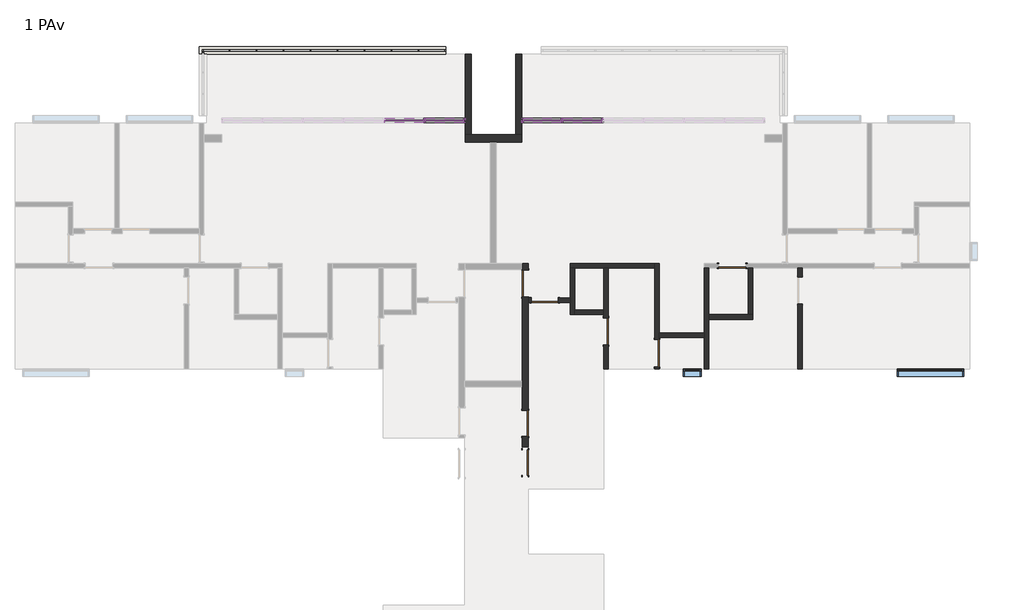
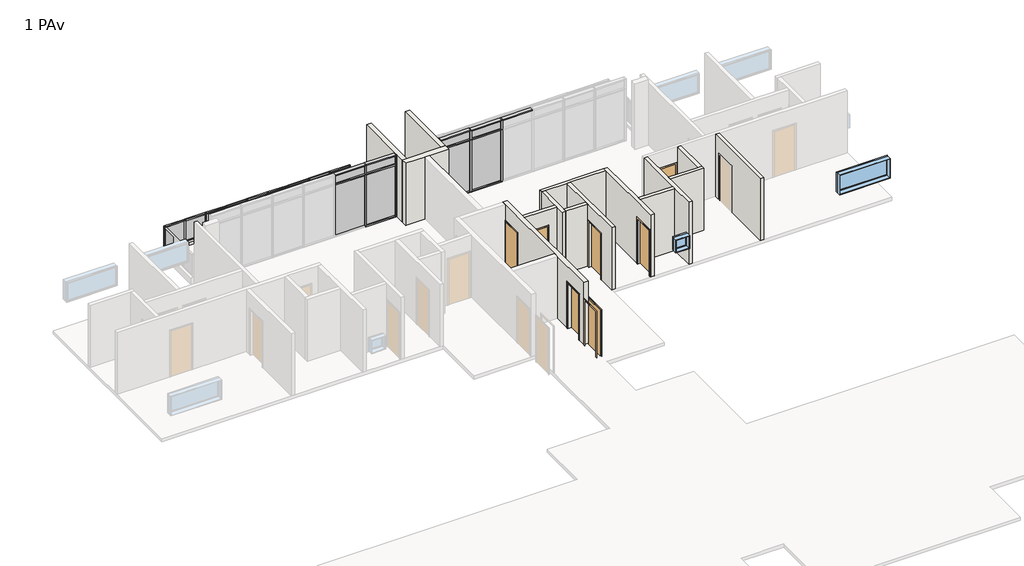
# One storey, part 5 of 6: 52 members, 18 plates, 16 walls, 7 doors, 2 windows.
"""IFC4 building model written with IfcOpenShell, lengths in millimetres."""

from ifc_helpers import new_model, si_unit, frame, origin, place, context, project, spatial, polyline, outline, extrude, faceted_brep, transform, mapped, element, save
from components import door_85_x_210_ba3adec2, door_85_x_210_7675e995, door_90_x_210_2c83007d, door_90_x_210_ee935524, door_90_x_210_565370b3, montante_retangular_50_mm_quadrado_4acded50, montante_retangular_50_mm_quadrado_237d7072, montante_retangular_50_mm_quadrado_84e40a56, montante_retangular_50_mm_quadrado_3d152aff, montante_retangular_50_mm_quadrado_a01005a4, montante_retangular_50_x_150_mm_6217edde, montante_retangular_50_x_150_mm_a22249d7, montante_retangular_50_x_150_mm_6225e4e3, montante_retangular_50_x_150_mm_662c37b1, montante_retangular_50_x_150_mm_567eccab, montante_retangular_50_x_150_mm_1ca2bba2, montante_retangular_50_x_150_mm_6abf4531, montante_retangular_50_x_150_mm_0a8c3443, painel_do_sistema_57ceaf50, painel_do_sistema_ab0ed719, painel_do_sistema_0196877a, painel_do_sistema_1ecb5f42, painel_do_sistema_49db1829, painel_do_sistema_5ea5287b, painel_do_sistema_7730abee, window_0610_x_0610_mm_b5667cc9, window_220_x_90_cea65aae

model = new_model("IFC4")

# Units and contexts
model_context = context("Model", 3, world=origin())
ifc_project = project(units=[si_unit("LENGTHUNIT", "METRE", prefix="MILLI")], contexts=[model_context])

# Site, building, storey
site = spatial("IfcSite", under=ifc_project)
building = spatial("IfcBuilding", under=site)
storey = spatial("IfcBuildingStorey", under=building, Name="1 PAv", Elevation=3000.0)

# Doors
placement = place(None, origin())
door_85_x_210_shape = door_85_x_210_ba3adec2(model_context)
element("IfcDoor", 1, ObjectType="M_Descarga simples : 85 x 210", at=placement, inside=storey, context=model_context, shape_type="MappedRepresentation", body=[
    mapped(door_85_x_210_shape, transform((23.7734258, 2728.6614625, 3000.0), x_axis=(0.0, 1.0, 0.0), y_axis=(-1.0, 0.0, 0.0), z_axis=(0.0, 0.0, 1.0))),
])
door_85_x_210_2_shape = door_85_x_210_7675e995(model_context)
element("IfcDoor", 2, ObjectType="M_Descarga simples : 85 x 210", at=placement, inside=storey, context=model_context, shape_type="MappedRepresentation", body=[
    mapped(door_85_x_210_2_shape, transform((23.7734258, 4028.6614625, 3000.0), x_axis=(0.0, -1.0, 0.0), y_axis=(1.0, 0.0, 0.0), z_axis=(0.0, 0.0, 1.0))),
])
door_90_x_210_shape = door_90_x_210_2c83007d(model_context)
element("IfcDoor", 3, ObjectType="M_Descarga simples : 90 x 210", at=placement, inside=storey, context=model_context, shape_type="MappedRepresentation", body=[
    mapped(door_90_x_210_shape, transform((23.7734258, 8673.2521762, 3000.0), x_axis=(0.0, 1.0, 0.0), y_axis=(-1.0, 0.0, 0.0), z_axis=(0.0, 0.0, 1.0))),
])
door_90_x_210_2_shape = door_90_x_210_ee935524(model_context)
element("IfcDoor", 4, ObjectType="M_Descarga simples : 90 x 210", at=placement, inside=storey, context=model_context, shape_type="MappedRepresentation", body=[
    mapped(door_90_x_210_2_shape, transform((673.7734258, 8118.6614625, 3000.0), x_axis=(-1.0, 0.0, 0.0), y_axis=(0.0, -1.0, 0.0), z_axis=(0.0, 0.0, 1.0))),
])
element("IfcDoor", 5, ObjectType="M_Descarga simples : 90 x 210", at=placement, inside=storey, context=model_context, shape_type="MappedRepresentation", body=[
    mapped(door_90_x_210_2_shape, transform((2698.7734258, 7083.6614625, 3000.0), x_axis=(0.0, -1.0, 0.0), y_axis=(1.0, 0.0, 0.0), z_axis=(0.0, 0.0, 1.0))),
])
element("IfcDoor", 6, ObjectType="M_Descarga simples : 90 x 210", at=placement, inside=storey, context=model_context, shape_type="MappedRepresentation", body=[
    mapped(door_90_x_210_2_shape, transform((4388.7734258, 6358.6614625, 3000.0), x_axis=(0.0, -1.0, 0.0), y_axis=(1.0, 0.0, 0.0), z_axis=(0.0, 0.0, 1.0))),
])
door_90_x_210_3_shape = door_90_x_210_565370b3(model_context)
element("IfcDoor", 7, ObjectType="M_Descarga simples : 90 x 210", at=placement, inside=storey, context=model_context, shape_type="MappedRepresentation", body=[
    mapped(door_90_x_210_3_shape, transform((6883.7734258, 9258.6614625, 3000.0), x_axis=(1.0, 0.0, 0.0), y_axis=(0.0, 1.0, 0.0), z_axis=(0.0, 0.0, 1.0))),
])

# Members
montante_retangular_50_mm_quadrado_shape = montante_retangular_50_mm_quadrado_4acded50(model_context)
element("IfcMember", 8, ObjectType="Montante retangular : 50 mm Quadrado", at=placement, inside=storey, context=model_context, shape_type="MappedRepresentation", body=[
    mapped(montante_retangular_50_mm_quadrado_shape, transform((-10616.2265742, 16403.6614625, 4150.0), x_axis=(0.0, 0.0, 1.0), y_axis=(0.0, 1.0, 0.0), z_axis=(-1.0, 0.0, 0.0))),
])
element("IfcMember", 9, ObjectType="Montante retangular : 50 mm Quadrado", at=placement, inside=storey, context=model_context, shape_type="MappedRepresentation", body=[
    mapped(montante_retangular_50_mm_quadrado_shape, transform((-3481.2265742, 16403.6614625, 4150.0), x_axis=(0.0, 0.0, 1.0), y_axis=(0.0, 1.0, 0.0), z_axis=(-1.0, 0.0, 0.0))),
])
montante_retangular_50_mm_quadrado_2_shape = montante_retangular_50_mm_quadrado_237d7072(model_context)
element("IfcMember", 10, ObjectType="Montante retangular : 50 mm Quadrado", at=placement, inside=storey, context=model_context, shape_type="MappedRepresentation", body=[
    mapped(montante_retangular_50_mm_quadrado_2_shape, transform((-4376.2265742, 16403.6614625, 4150.0), x_axis=(0.0, 0.0, 1.0), y_axis=(0.0, 1.0, 0.0), z_axis=(-1.0, 0.0, 0.0))),
])
element("IfcMember", 11, ObjectType="Montante retangular : 50 mm Quadrado", at=placement, inside=storey, context=model_context, shape_type="MappedRepresentation", body=[
    mapped(montante_retangular_50_mm_quadrado_2_shape, transform((-5271.2265742, 16403.6614625, 4150.0), x_axis=(0.0, 0.0, 1.0), y_axis=(0.0, 1.0, 0.0), z_axis=(-1.0, 0.0, 0.0))),
])
element("IfcMember", 12, ObjectType="Montante retangular : 50 mm Quadrado", at=placement, inside=storey, context=model_context, shape_type="MappedRepresentation", body=[
    mapped(montante_retangular_50_mm_quadrado_2_shape, transform((-6166.2265742, 16403.6614625, 4150.0), x_axis=(0.0, 0.0, 1.0), y_axis=(0.0, 1.0, 0.0), z_axis=(-1.0, 0.0, 0.0))),
])
element("IfcMember", 13, ObjectType="Montante retangular : 50 mm Quadrado", at=placement, inside=storey, context=model_context, shape_type="MappedRepresentation", body=[
    mapped(montante_retangular_50_mm_quadrado_2_shape, transform((-7061.2265742, 16403.6614625, 4150.0), x_axis=(0.0, 0.0, 1.0), y_axis=(0.0, 1.0, 0.0), z_axis=(-1.0, 0.0, 0.0))),
])
element("IfcMember", 14, ObjectType="Montante retangular : 50 mm Quadrado", at=placement, inside=storey, context=model_context, shape_type="MappedRepresentation", body=[
    mapped(montante_retangular_50_mm_quadrado_2_shape, transform((-7956.2265742, 16403.6614625, 4150.0), x_axis=(0.0, 0.0, 1.0), y_axis=(0.0, 1.0, 0.0), z_axis=(-1.0, 0.0, 0.0))),
])
element("IfcMember", 15, ObjectType="Montante retangular : 50 mm Quadrado", at=placement, inside=storey, context=model_context, shape_type="MappedRepresentation", body=[
    mapped(montante_retangular_50_mm_quadrado_2_shape, transform((-8851.2265742, 16403.6614625, 4150.0), x_axis=(0.0, 0.0, 1.0), y_axis=(0.0, 1.0, 0.0), z_axis=(-1.0, 0.0, 0.0))),
])
element("IfcMember", 16, ObjectType="Montante retangular : 50 mm Quadrado", at=placement, inside=storey, context=model_context, shape_type="MappedRepresentation", body=[
    mapped(montante_retangular_50_mm_quadrado_2_shape, transform((-9746.2265742, 16403.6614625, 4150.0), x_axis=(0.0, 0.0, 1.0), y_axis=(0.0, 1.0, 0.0), z_axis=(-1.0, 0.0, 0.0))),
])
element("IfcMember", 17, ObjectType="Montante retangular : 50 mm Quadrado", at=placement, inside=storey, context=model_context, shape_type="MappedRepresentation", body=[
    mapped(montante_retangular_50_mm_quadrado_shape, transform((-2661.2265742, 16403.6614625, 3150.0), x_axis=(0.0, 0.0, -1.0), y_axis=(0.0, 1.0, 0.0), z_axis=(1.0, 0.0, 0.0))),
])
element("IfcMember", 18, ObjectType="Montante retangular : 50 mm Quadrado", at=placement, inside=storey, context=model_context, shape_type="MappedRepresentation", body=[
    mapped(montante_retangular_50_mm_quadrado_shape, transform((-9796.2265742, 16403.6614625, 3150.0), x_axis=(0.0, 0.0, -1.0), y_axis=(0.0, 1.0, 0.0), z_axis=(1.0, 0.0, 0.0))),
])
element("IfcMember", 19, ObjectType="Montante retangular : 50 mm Quadrado", at=placement, inside=storey, context=model_context, shape_type="MappedRepresentation", body=[
    mapped(montante_retangular_50_mm_quadrado_2_shape, transform((-3531.2265742, 16403.6614625, 3150.0), x_axis=(0.0, 0.0, -1.0), y_axis=(0.0, 1.0, 0.0), z_axis=(1.0, 0.0, 0.0))),
])
element("IfcMember", 20, ObjectType="Montante retangular : 50 mm Quadrado", at=placement, inside=storey, context=model_context, shape_type="MappedRepresentation", body=[
    mapped(montante_retangular_50_mm_quadrado_2_shape, transform((-4426.2265742, 16403.6614625, 3150.0), x_axis=(0.0, 0.0, -1.0), y_axis=(0.0, 1.0, 0.0), z_axis=(1.0, 0.0, 0.0))),
])
element("IfcMember", 21, ObjectType="Montante retangular : 50 mm Quadrado", at=placement, inside=storey, context=model_context, shape_type="MappedRepresentation", body=[
    mapped(montante_retangular_50_mm_quadrado_2_shape, transform((-5321.2265742, 16403.6614625, 3150.0), x_axis=(0.0, 0.0, -1.0), y_axis=(0.0, 1.0, 0.0), z_axis=(1.0, 0.0, 0.0))),
])
element("IfcMember", 22, ObjectType="Montante retangular : 50 mm Quadrado", at=placement, inside=storey, context=model_context, shape_type="MappedRepresentation", body=[
    mapped(montante_retangular_50_mm_quadrado_2_shape, transform((-6216.2265742, 16403.6614625, 3150.0), x_axis=(0.0, 0.0, -1.0), y_axis=(0.0, 1.0, 0.0), z_axis=(1.0, 0.0, 0.0))),
])
element("IfcMember", 23, ObjectType="Montante retangular : 50 mm Quadrado", at=placement, inside=storey, context=model_context, shape_type="MappedRepresentation", body=[
    mapped(montante_retangular_50_mm_quadrado_2_shape, transform((-7111.2265742, 16403.6614625, 3150.0), x_axis=(0.0, 0.0, -1.0), y_axis=(0.0, 1.0, 0.0), z_axis=(1.0, 0.0, 0.0))),
])
element("IfcMember", 24, ObjectType="Montante retangular : 50 mm Quadrado", at=placement, inside=storey, context=model_context, shape_type="MappedRepresentation", body=[
    mapped(montante_retangular_50_mm_quadrado_2_shape, transform((-8006.2265742, 16403.6614625, 3150.0), x_axis=(0.0, 0.0, -1.0), y_axis=(0.0, 1.0, 0.0), z_axis=(1.0, 0.0, 0.0))),
])
element("IfcMember", 25, ObjectType="Montante retangular : 50 mm Quadrado", at=placement, inside=storey, context=model_context, shape_type="MappedRepresentation", body=[
    mapped(montante_retangular_50_mm_quadrado_2_shape, transform((-8901.2265742, 16403.6614625, 3150.0), x_axis=(0.0, 0.0, -1.0), y_axis=(0.0, 1.0, 0.0), z_axis=(1.0, 0.0, 0.0))),
])
montante_retangular_50_mm_quadrado_3_shape = montante_retangular_50_mm_quadrado_84e40a56(model_context)
element("IfcMember", 26, ObjectType="Montante retangular : 50 mm Quadrado", at=placement, inside=storey, context=model_context, shape_type="MappedRepresentation", body=[
    mapped(montante_retangular_50_mm_quadrado_3_shape, transform((-3506.2265742, 16403.6614625, 3150.0), x_axis=(-1.0, 0.0, 0.0), y_axis=(0.0, 1.0, 0.0), z_axis=(0.0, 0.0, -1.0))),
])
element("IfcMember", 27, ObjectType="Montante retangular : 50 mm Quadrado", at=placement, inside=storey, context=model_context, shape_type="MappedRepresentation", body=[
    mapped(montante_retangular_50_mm_quadrado_3_shape, transform((-4401.2265742, 16403.6614625, 3150.0), x_axis=(-1.0, 0.0, 0.0), y_axis=(0.0, 1.0, 0.0), z_axis=(0.0, 0.0, -1.0))),
])
element("IfcMember", 28, ObjectType="Montante retangular : 50 mm Quadrado", at=placement, inside=storey, context=model_context, shape_type="MappedRepresentation", body=[
    mapped(montante_retangular_50_mm_quadrado_3_shape, transform((-5296.2265742, 16403.6614625, 3150.0), x_axis=(-1.0, 0.0, 0.0), y_axis=(0.0, 1.0, 0.0), z_axis=(0.0, 0.0, -1.0))),
])
element("IfcMember", 29, ObjectType="Montante retangular : 50 mm Quadrado", at=placement, inside=storey, context=model_context, shape_type="MappedRepresentation", body=[
    mapped(montante_retangular_50_mm_quadrado_3_shape, transform((-6191.2265742, 16403.6614625, 3150.0), x_axis=(-1.0, 0.0, 0.0), y_axis=(0.0, 1.0, 0.0), z_axis=(0.0, 0.0, -1.0))),
])
element("IfcMember", 30, ObjectType="Montante retangular : 50 mm Quadrado", at=placement, inside=storey, context=model_context, shape_type="MappedRepresentation", body=[
    mapped(montante_retangular_50_mm_quadrado_3_shape, transform((-7086.2265742, 16403.6614625, 3150.0), x_axis=(-1.0, 0.0, 0.0), y_axis=(0.0, 1.0, 0.0), z_axis=(0.0, 0.0, -1.0))),
])
element("IfcMember", 31, ObjectType="Montante retangular : 50 mm Quadrado", at=placement, inside=storey, context=model_context, shape_type="MappedRepresentation", body=[
    mapped(montante_retangular_50_mm_quadrado_3_shape, transform((-7981.2265742, 16403.6614625, 3150.0), x_axis=(-1.0, 0.0, 0.0), y_axis=(0.0, 1.0, 0.0), z_axis=(0.0, 0.0, -1.0))),
])
element("IfcMember", 32, ObjectType="Montante retangular : 50 mm Quadrado", at=placement, inside=storey, context=model_context, shape_type="MappedRepresentation", body=[
    mapped(montante_retangular_50_mm_quadrado_3_shape, transform((-8876.2265742, 16403.6614625, 3150.0), x_axis=(-1.0, 0.0, 0.0), y_axis=(0.0, 1.0, 0.0), z_axis=(0.0, 0.0, -1.0))),
])
element("IfcMember", 33, ObjectType="Montante retangular : 50 mm Quadrado", at=placement, inside=storey, context=model_context, shape_type="MappedRepresentation", body=[
    mapped(montante_retangular_50_mm_quadrado_3_shape, transform((-9771.2265742, 16403.6614625, 3150.0), x_axis=(-1.0, 0.0, 0.0), y_axis=(0.0, 1.0, 0.0), z_axis=(0.0, 0.0, -1.0))),
])
montante_retangular_50_mm_quadrado_4_shape = montante_retangular_50_mm_quadrado_3d152aff(model_context)
element("IfcMember", 34, ObjectType="Montante retangular : 50 mm Quadrado", at=placement, inside=storey, context=model_context, shape_type="MappedRepresentation", body=[
    mapped(montante_retangular_50_mm_quadrado_4_shape, transform((-10666.2265742, 16403.6614625, 3150.0), x_axis=(-1.0, 0.0, 0.0), y_axis=(0.0, 1.0, 0.0), z_axis=(0.0, 0.0, -1.0))),
])
element("IfcMember", 35, ObjectType="Montante retangular : 50 mm Quadrado", at=placement, inside=storey, context=model_context, shape_type="MappedRepresentation", body=[
    mapped(montante_retangular_50_mm_quadrado_4_shape, transform((-2611.2265742, 16403.6614625, 4150.0), x_axis=(1.0, 0.0, 0.0), y_axis=(0.0, 1.0, 0.0), z_axis=(0.0, 0.0, 1.0))),
])
element("IfcMember", 36, ObjectType="Montante retangular : 50 mm Quadrado", at=placement, inside=storey, context=model_context, shape_type="MappedRepresentation", body=[
    mapped(montante_retangular_50_mm_quadrado_4_shape, transform((-10641.2265742, 16378.6614625, 4150.0), x_axis=(0.0, 1.0, 0.0), y_axis=(-1.0, 0.0, 0.0), z_axis=(0.0, 0.0, 1.0))),
])
montante_retangular_50_mm_quadrado_5_shape = montante_retangular_50_mm_quadrado_a01005a4(model_context)
element("IfcMember", 37, ObjectType="Montante retangular : 50 mm Quadrado", at=placement, inside=storey, context=model_context, shape_type="MappedRepresentation", body=[
    mapped(montante_retangular_50_mm_quadrado_5_shape, transform((-10641.2265742, 16328.6614625, 3150.0), x_axis=(0.0, 0.0, -1.0), y_axis=(-1.0, 0.0, 0.0), z_axis=(0.0, 1.0, 0.0))),
])
montante_retangular_50_x_150_mm_shape = montante_retangular_50_x_150_mm_6217edde(model_context)
element("IfcMember", 38, ObjectType="Montante retangular : 50 x 150 mm", at=placement, inside=storey, context=model_context, shape_type="MappedRepresentation", body=[
    mapped(montante_retangular_50_x_150_mm_shape, transform((-41.2265742, 14083.6614625, 5850.0), x_axis=(0.0, 0.0, 1.0), y_axis=(0.0, 1.0, 0.0), z_axis=(-1.0, 0.0, 0.0))),
])
montante_retangular_50_x_150_mm_2_shape = montante_retangular_50_x_150_mm_a22249d7(model_context)
element("IfcMember", 39, ObjectType="Montante retangular : 50 x 150 mm", at=placement, inside=storey, context=model_context, shape_type="MappedRepresentation", body=[
    mapped(montante_retangular_50_x_150_mm_2_shape, transform((2622.1067592, 14083.6614625, 5850.0), x_axis=(0.0, 0.0, 1.0), y_axis=(0.0, 1.0, 0.0), z_axis=(-1.0, 0.0, 0.0))),
])
element("IfcMember", 40, ObjectType="Montante retangular : 50 x 150 mm", at=placement, inside=storey, context=model_context, shape_type="MappedRepresentation", body=[
    mapped(montante_retangular_50_x_150_mm_2_shape, transform((1277.9400925, 14083.6614625, 5850.0), x_axis=(0.0, 0.0, 1.0), y_axis=(0.0, 1.0, 0.0), z_axis=(-1.0, 0.0, 0.0))),
])
element("IfcMember", 41, ObjectType="Montante retangular : 50 x 150 mm", at=placement, inside=storey, context=model_context, shape_type="MappedRepresentation", body=[
    mapped(montante_retangular_50_x_150_mm_shape, transform((1227.9400925, 14083.6614625, 3000.0), x_axis=(0.0, 0.0, -1.0), y_axis=(0.0, 1.0, 0.0), z_axis=(1.0, 0.0, 0.0))),
])
element("IfcMember", 42, ObjectType="Montante retangular : 50 x 150 mm", at=placement, inside=storey, context=model_context, shape_type="MappedRepresentation", body=[
    mapped(montante_retangular_50_x_150_mm_2_shape, transform((2572.1067592, 14083.6614625, 3000.0), x_axis=(0.0, 0.0, -1.0), y_axis=(0.0, 1.0, 0.0), z_axis=(1.0, 0.0, 0.0))),
])
element("IfcMember", 43, ObjectType="Montante retangular : 50 x 150 mm", at=placement, inside=storey, context=model_context, shape_type="MappedRepresentation", body=[
    mapped(montante_retangular_50_x_150_mm_shape, transform((-2011.2265742, 14083.6614625, 5850.0), x_axis=(0.0, 0.0, 1.0), y_axis=(0.0, -1.0, 0.0), z_axis=(1.0, 0.0, 0.0))),
])
element("IfcMember", 44, ObjectType="Montante retangular : 50 x 150 mm", at=placement, inside=storey, context=model_context, shape_type="MappedRepresentation", body=[
    mapped(montante_retangular_50_x_150_mm_2_shape, transform((-3330.3932408, 14083.6614625, 5850.0), x_axis=(0.0, 0.0, 1.0), y_axis=(0.0, -1.0, 0.0), z_axis=(1.0, 0.0, 0.0))),
])
element("IfcMember", 45, ObjectType="Montante retangular : 50 x 150 mm", at=placement, inside=storey, context=model_context, shape_type="MappedRepresentation", body=[
    mapped(montante_retangular_50_x_150_mm_shape, transform((-3280.3932408, 14083.6614625, 3000.0), x_axis=(0.0, 0.0, -1.0), y_axis=(0.0, -1.0, 0.0), z_axis=(-1.0, 0.0, 0.0))),
])
montante_retangular_50_x_150_mm_3_shape = montante_retangular_50_x_150_mm_6225e4e3(model_context)
element("IfcMember", 46, ObjectType="Montante retangular : 50 x 150 mm", at=placement, inside=storey, context=model_context, shape_type="MappedRepresentation", body=[
    mapped(montante_retangular_50_x_150_mm_3_shape, transform((-3305.3932408, 14083.6614625, 3000.0), x_axis=(1.0, 0.0, 0.0), y_axis=(0.0, -1.0, 0.0), z_axis=(0.0, 0.0, -1.0))),
])
montante_retangular_50_x_150_mm_4_shape = montante_retangular_50_x_150_mm_662c37b1(model_context)
element("IfcMember", 47, ObjectType="Montante retangular : 50 x 150 mm", at=placement, inside=storey, context=model_context, shape_type="MappedRepresentation", body=[
    mapped(montante_retangular_50_x_150_mm_4_shape, transform((-1961.2265742, 14083.6614625, 3000.0), x_axis=(1.0, 0.0, 0.0), y_axis=(0.0, -1.0, 0.0), z_axis=(0.0, 0.0, -1.0))),
])
element("IfcMember", 48, ObjectType="Montante retangular : 50 x 150 mm", at=placement, inside=storey, context=model_context, shape_type="MappedRepresentation", body=[
    mapped(montante_retangular_50_x_150_mm_3_shape, transform((2597.1067592, 14083.6614625, 3000.0), x_axis=(-1.0, 0.0, 0.0), y_axis=(0.0, 1.0, 0.0), z_axis=(0.0, 0.0, -1.0))),
])
element("IfcMember", 49, ObjectType="Montante retangular : 50 x 150 mm", at=placement, inside=storey, context=model_context, shape_type="MappedRepresentation", body=[
    mapped(montante_retangular_50_x_150_mm_3_shape, transform((1252.9400925, 14083.6614625, 3000.0), x_axis=(-1.0, 0.0, 0.0), y_axis=(0.0, 1.0, 0.0), z_axis=(0.0, 0.0, -1.0))),
])
element("IfcMember", 50, ObjectType="Montante retangular : 50 x 150 mm", at=placement, inside=storey, context=model_context, shape_type="MappedRepresentation", body=[
    mapped(montante_retangular_50_x_150_mm_4_shape, transform((-91.2265742, 14083.6614625, 3000.0), x_axis=(-1.0, 0.0, 0.0), y_axis=(0.0, 1.0, 0.0), z_axis=(0.0, 0.0, -1.0))),
])
montante_retangular_50_x_150_mm_5_shape = montante_retangular_50_x_150_mm_567eccab(model_context)
element("IfcMember", 51, ObjectType="Montante retangular : 50 x 150 mm", at=placement, inside=storey, context=model_context, shape_type="MappedRepresentation", body=[
    mapped(montante_retangular_50_x_150_mm_5_shape, transform((-3305.3932408, 14083.6614625, 5400.0), x_axis=(1.0, 0.0, 0.0), y_axis=(0.0, -1.0, 0.0), z_axis=(0.0, 0.0, -1.0))),
])
montante_retangular_50_x_150_mm_6_shape = montante_retangular_50_x_150_mm_1ca2bba2(model_context)
element("IfcMember", 52, ObjectType="Montante retangular : 50 x 150 mm", at=placement, inside=storey, context=model_context, shape_type="MappedRepresentation", body=[
    mapped(montante_retangular_50_x_150_mm_6_shape, transform((-2011.2265742, 14083.6614625, 5400.0), x_axis=(0.0, 0.0, 1.0), y_axis=(0.0, -1.0, 0.0), z_axis=(1.0, 0.0, 0.0))),
])
montante_retangular_50_x_150_mm_7_shape = montante_retangular_50_x_150_mm_6abf4531(model_context)
element("IfcMember", 53, ObjectType="Montante retangular : 50 x 150 mm", at=placement, inside=storey, context=model_context, shape_type="MappedRepresentation", body=[
    mapped(montante_retangular_50_x_150_mm_7_shape, transform((-3330.3932408, 14083.6614625, 5400.0), x_axis=(0.0, 0.0, 1.0), y_axis=(0.0, -1.0, 0.0), z_axis=(1.0, 0.0, 0.0))),
])
element("IfcMember", 54, ObjectType="Montante retangular : 50 x 150 mm", at=placement, inside=storey, context=model_context, shape_type="MappedRepresentation", body=[
    mapped(montante_retangular_50_x_150_mm_5_shape, transform((2597.1067592, 14083.6614625, 5400.0), x_axis=(-1.0, 0.0, 0.0), y_axis=(0.0, 1.0, 0.0), z_axis=(0.0, 0.0, -1.0))),
])
element("IfcMember", 55, ObjectType="Montante retangular : 50 x 150 mm", at=placement, inside=storey, context=model_context, shape_type="MappedRepresentation", body=[
    mapped(montante_retangular_50_x_150_mm_5_shape, transform((1252.9400925, 14083.6614625, 5400.0), x_axis=(-1.0, 0.0, 0.0), y_axis=(0.0, 1.0, 0.0), z_axis=(0.0, 0.0, -1.0))),
])
element("IfcMember", 56, ObjectType="Montante retangular : 50 x 150 mm", at=placement, inside=storey, context=model_context, shape_type="MappedRepresentation", body=[
    mapped(montante_retangular_50_x_150_mm_6_shape, transform((-41.2265742, 14083.6614625, 5400.0), x_axis=(0.0, 0.0, 1.0), y_axis=(0.0, 1.0, 0.0), z_axis=(-1.0, 0.0, 0.0))),
])
element("IfcMember", 57, ObjectType="Montante retangular : 50 x 150 mm", at=placement, inside=storey, context=model_context, shape_type="MappedRepresentation", body=[
    mapped(montante_retangular_50_x_150_mm_7_shape, transform((1277.9400925, 14083.6614625, 5400.0), x_axis=(0.0, 0.0, 1.0), y_axis=(0.0, 1.0, 0.0), z_axis=(-1.0, 0.0, 0.0))),
])
montante_retangular_50_x_150_mm_8_shape = montante_retangular_50_x_150_mm_0a8c3443(model_context)
element("IfcMember", 58, ObjectType="Montante retangular : 50 x 150 mm", at=placement, inside=storey, context=model_context, shape_type="MappedRepresentation", body=[
    mapped(montante_retangular_50_x_150_mm_8_shape, transform((-91.2265742, 14083.6614625, 5400.0), x_axis=(-1.0, 0.0, 0.0), y_axis=(0.0, 1.0, 0.0), z_axis=(0.0, 0.0, -1.0))),
])
element("IfcMember", 59, ObjectType="Montante retangular : 50 x 150 mm", at=placement, inside=storey, context=model_context, shape_type="MappedRepresentation", body=[
    mapped(montante_retangular_50_x_150_mm_8_shape, transform((-1961.2265742, 14083.6614625, 5400.0), x_axis=(1.0, 0.0, 0.0), y_axis=(0.0, -1.0, 0.0), z_axis=(0.0, 0.0, -1.0))),
])

# Plates
painel_do_sistema_shape = painel_do_sistema_57ceaf50(model_context)
element("IfcPlate", 60, ObjectType="Painel do sistema : Envidraçado", at=placement, inside=storey, context=model_context, shape_type="MappedRepresentation", body=[
    mapped(painel_do_sistema_shape, transform((-3071.2265742, 16403.6614625, 3200.0), x_axis=(-1.0, 0.0, 0.0), y_axis=(0.0, -1.0, 0.0), z_axis=(0.0, 0.0, 1.0))),
])
element("IfcPlate", 61, ObjectType="Painel do sistema : Envidraçado", at=placement, inside=storey, context=model_context, shape_type="MappedRepresentation", body=[
    mapped(painel_do_sistema_shape, transform((-10206.2265742, 16403.6614625, 3200.0), x_axis=(-1.0, 0.0, 0.0), y_axis=(0.0, -1.0, 0.0), z_axis=(0.0, 0.0, 1.0))),
])
painel_do_sistema_2_shape = painel_do_sistema_ab0ed719(model_context)
element("IfcPlate", 62, ObjectType="Painel do sistema : Envidraçado", at=placement, inside=storey, context=model_context, shape_type="MappedRepresentation", body=[
    mapped(painel_do_sistema_2_shape, transform((-3953.7265742, 16403.6614625, 3200.0), x_axis=(-1.0, 0.0, 0.0), y_axis=(0.0, -1.0, 0.0), z_axis=(0.0, 0.0, 1.0))),
])
element("IfcPlate", 63, ObjectType="Painel do sistema : Envidraçado", at=placement, inside=storey, context=model_context, shape_type="MappedRepresentation", body=[
    mapped(painel_do_sistema_2_shape, transform((-4848.7265742, 16403.6614625, 3200.0), x_axis=(-1.0, 0.0, 0.0), y_axis=(0.0, -1.0, 0.0), z_axis=(0.0, 0.0, 1.0))),
])
element("IfcPlate", 64, ObjectType="Painel do sistema : Envidraçado", at=placement, inside=storey, context=model_context, shape_type="MappedRepresentation", body=[
    mapped(painel_do_sistema_2_shape, transform((-5743.7265742, 16403.6614625, 3200.0), x_axis=(-1.0, 0.0, 0.0), y_axis=(0.0, -1.0, 0.0), z_axis=(0.0, 0.0, 1.0))),
])
element("IfcPlate", 65, ObjectType="Painel do sistema : Envidraçado", at=placement, inside=storey, context=model_context, shape_type="MappedRepresentation", body=[
    mapped(painel_do_sistema_2_shape, transform((-6638.7265742, 16403.6614625, 3200.0), x_axis=(-1.0, 0.0, 0.0), y_axis=(0.0, -1.0, 0.0), z_axis=(0.0, 0.0, 1.0))),
])
element("IfcPlate", 66, ObjectType="Painel do sistema : Envidraçado", at=placement, inside=storey, context=model_context, shape_type="MappedRepresentation", body=[
    mapped(painel_do_sistema_2_shape, transform((-7533.7265742, 16403.6614625, 3200.0), x_axis=(-1.0, 0.0, 0.0), y_axis=(0.0, -1.0, 0.0), z_axis=(0.0, 0.0, 1.0))),
])
element("IfcPlate", 67, ObjectType="Painel do sistema : Envidraçado", at=placement, inside=storey, context=model_context, shape_type="MappedRepresentation", body=[
    mapped(painel_do_sistema_2_shape, transform((-8428.7265742, 16403.6614625, 3200.0), x_axis=(-1.0, 0.0, 0.0), y_axis=(0.0, -1.0, 0.0), z_axis=(0.0, 0.0, 1.0))),
])
element("IfcPlate", 68, ObjectType="Painel do sistema : Envidraçado", at=placement, inside=storey, context=model_context, shape_type="MappedRepresentation", body=[
    mapped(painel_do_sistema_2_shape, transform((-9323.7265742, 16403.6614625, 3200.0), x_axis=(-1.0, 0.0, 0.0), y_axis=(0.0, -1.0, 0.0), z_axis=(0.0, 0.0, 1.0))),
])
painel_do_sistema_3_shape = painel_do_sistema_0196877a(model_context)
element("IfcPlate", 69, ObjectType="Painel do sistema : Envidraçado", at=placement, inside=storey, context=model_context, shape_type="MappedRepresentation", body=[
    mapped(painel_do_sistema_3_shape, transform((-10641.2265742, 16008.6614625, 3200.0), x_axis=(0.0, -1.0, 0.0), y_axis=(1.0, 0.0, 0.0), z_axis=(0.0, 0.0, 1.0))),
])
painel_do_sistema_4_shape = painel_do_sistema_1ecb5f42(model_context)
element("IfcPlate", 70, ObjectType="Painel do sistema : Envidraçado", at=placement, inside=storey, context=model_context, shape_type="MappedRepresentation", body=[
    mapped(painel_do_sistema_4_shape, transform((-2645.8099075, 14083.6614625, 3050.0), x_axis=(1.0, 0.0, 0.0), y_axis=(0.0, 1.0, 0.0), z_axis=(0.0, 0.0, 1.0))),
])
painel_do_sistema_5_shape = painel_do_sistema_49db1829(model_context)
element("IfcPlate", 71, ObjectType="Painel do sistema : Envidraçado", at=placement, inside=storey, context=model_context, shape_type="MappedRepresentation", body=[
    mapped(painel_do_sistema_5_shape, transform((-3977.4765742, 14083.6614625, 3050.0), x_axis=(1.0, 0.0, 0.0), y_axis=(0.0, 1.0, 0.0), z_axis=(0.0, 0.0, 1.0))),
])
painel_do_sistema_6_shape = painel_do_sistema_5ea5287b(model_context)
element("IfcPlate", 72, ObjectType="Painel do sistema : Envidraçado", at=placement, inside=storey, context=model_context, shape_type="MappedRepresentation", body=[
    mapped(painel_do_sistema_6_shape, transform((-2645.8099075, 14083.6614625, 5425.0), x_axis=(1.0, 0.0, 0.0), y_axis=(0.0, 1.0, 0.0), z_axis=(0.0, 0.0, 1.0))),
])
painel_do_sistema_7_shape = painel_do_sistema_7730abee(model_context)
element("IfcPlate", 73, ObjectType="Painel do sistema : Envidraçado", at=placement, inside=storey, context=model_context, shape_type="MappedRepresentation", body=[
    mapped(painel_do_sistema_7_shape, transform((-3977.4765742, 14083.6614625, 5425.0), x_axis=(1.0, 0.0, 0.0), y_axis=(0.0, 1.0, 0.0), z_axis=(0.0, 0.0, 1.0))),
])
element("IfcPlate", 74, ObjectType="Painel do sistema : Envidraçado", at=placement, inside=storey, context=model_context, shape_type="MappedRepresentation", body=[
    mapped(painel_do_sistema_4_shape, transform((593.3567592, 14083.6614625, 3050.0), x_axis=(-1.0, 0.0, 0.0), y_axis=(0.0, -1.0, 0.0), z_axis=(0.0, 0.0, 1.0))),
])
element("IfcPlate", 75, ObjectType="Painel do sistema : Envidraçado", at=placement, inside=storey, context=model_context, shape_type="MappedRepresentation", body=[
    mapped(painel_do_sistema_5_shape, transform((1925.0234258, 14083.6614625, 3050.0), x_axis=(-1.0, 0.0, 0.0), y_axis=(0.0, -1.0, 0.0), z_axis=(0.0, 0.0, 1.0))),
])
element("IfcPlate", 76, ObjectType="Painel do sistema : Envidraçado", at=placement, inside=storey, context=model_context, shape_type="MappedRepresentation", body=[
    mapped(painel_do_sistema_6_shape, transform((593.3567592, 14083.6614625, 5425.0), x_axis=(-1.0, 0.0, 0.0), y_axis=(0.0, -1.0, 0.0), z_axis=(0.0, 0.0, 1.0))),
])
element("IfcPlate", 77, ObjectType="Painel do sistema : Envidraçado", at=placement, inside=storey, context=model_context, shape_type="MappedRepresentation", body=[
    mapped(painel_do_sistema_7_shape, transform((1925.0234258, 14083.6614625, 5425.0), x_axis=(-1.0, 0.0, 0.0), y_axis=(0.0, -1.0, 0.0), z_axis=(0.0, 0.0, 1.0))),
])

# Walls
element("IfcWall", 78, ObjectType="Exeterna 25", at=placement, inside=storey, context=model_context, shape_type="Brep", body=[
    faceted_brep([(-1961.2265742, 13353.6614625, 3000.0), (-1126.2265742, 13353.6614625, 3000.0), (-926.2265742, 13353.6614625, 3000.0), (-91.2265742, 13353.6614625, 3000.0), (-91.2265742, 13353.6614625, 5850.0), (-926.2265742, 13353.6614625, 5850.0), (-1126.2265742, 13353.6614625, 5850.0), (-1961.2265742, 13353.6614625, 5850.0), (-1961.2265742, 13603.6614625, 3000.0), (-1961.2265742, 13603.6614625, 5850.0), (-1761.2265742, 13603.6614625, 5850.0), (-291.2265742, 13603.6614625, 5850.0), (-91.2265742, 13603.6614625, 5850.0), (-91.2265742, 13603.6614625, 3000.0), (-291.2265742, 13603.6614625, 3000.0), (-1761.2265742, 13603.6614625, 3000.0)], [[[0, 1, 2, 3, 4, 5, 6, 7]], [[8, 9, 10, 11, 12, 13, 14, 15]], [[3, 2, 1, 0, 8, 15, 14, 13]], [[7, 6, 5, 4, 12, 11, 10, 9]], [[0, 7, 9, 8]], [[4, 3, 13, 12]]]),
])
element("IfcWall", 79, ObjectType="Exeterna 25", at=placement, inside=storey, context=model_context, shape_type="Brep", body=[
    faceted_brep([(-2611.2265742, 16528.6614625, 2850.0), (-10766.2265742, 16528.6614625, 2850.0), (-10766.2265742, 16528.6614625, 3150.0), (-2611.2265742, 16528.6614625, 3150.0), (-2611.2265742, 16278.6614625, 2850.0), (-2611.2265742, 16278.6614625, 3150.0), (-10516.2265742, 16278.6614625, 3150.0), (-10766.2265742, 16278.6614625, 3150.0), (-10766.2265742, 16278.6614625, 2850.0), (-10516.2265742, 16278.6614625, 2850.0)], [[[0, 1, 2, 3]], [[4, 5, 6, 7, 8, 9]], [[1, 0, 4, 9, 8]], [[3, 2, 7, 6, 5]], [[0, 3, 5, 4]], [[2, 1, 8, 7]]]),
])
element("IfcWall", 80, ObjectType="Interna 15", at=placement, inside=storey, context=model_context, shape_type="Brep", body=[
    faceted_brep([(5963.7734258, 9183.6614625, 3000.0), (5963.7734258, 7033.6614625, 3000.0), (5963.7734258, 6883.6614625, 3000.0), (5963.7734258, 5833.6614625, 3000.0), (5963.7734258, 5833.6614625, 5850.0), (5963.7734258, 6883.6614625, 5850.0), (5963.7734258, 7033.6614625, 5850.0), (5963.7734258, 9183.6614625, 5850.0), (6113.7734258, 9183.6614625, 3000.0), (6113.7734258, 9183.6614625, 5850.0), (6113.7734258, 7633.6614625, 5850.0), (6113.7734258, 7483.6614625, 5850.0), (6113.7734258, 5833.6614625, 5850.0), (6113.7734258, 5833.6614625, 3000.0), (6113.7734258, 7483.6614625, 3000.0), (6113.7734258, 7633.6614625, 3000.0)], [[[0, 1, 2, 3, 4, 5, 6, 7]], [[8, 9, 10, 11, 12, 13, 14, 15]], [[3, 2, 1, 0, 8, 15, 14, 13]], [[7, 6, 5, 4, 12, 11, 10, 9]], [[0, 7, 9, 8]], [[4, 3, 13, 12]]]),
])
element("IfcWall", 81, ObjectType="Interna 15", at=placement, inside=storey, context=model_context, shape_type="Brep", body=[
    faceted_brep([(6113.7734258, 7483.6614625, 3000.0), (7563.7734258, 7483.6614625, 3000.0), (7563.7734258, 7483.6614625, 5850.0), (6113.7734258, 7483.6614625, 5850.0), (6113.7734258, 7633.6614625, 3000.0), (6113.7734258, 7633.6614625, 5850.0), (7413.7734258, 7633.6614625, 5850.0), (7563.7734258, 7633.6614625, 5850.0), (7563.7734258, 7633.6614625, 3000.0), (7413.7734258, 7633.6614625, 3000.0)], [[[0, 1, 2, 3]], [[4, 5, 6, 7, 8, 9]], [[1, 0, 4, 9, 8]], [[3, 2, 7, 6, 5]], [[0, 3, 5, 4]], [[2, 1, 8, 7]]]),
])
element("IfcWall", 82, ObjectType="Interna 15", at=placement, inside=storey, context=model_context, shape_type="SweptSolid", body=[
    extrude(outline(polyline([(7563.7734258, 9183.6614625), (7563.7734258, 7633.6614625), (7413.7734258, 7633.6614625), (7413.7734258, 9183.6614625), (7563.7734258, 9183.6614625)])), frame((0.0, 0.0, 3000.0), z_axis=(0.0, 0.0, 1.0), x_axis=(1.0, 0.0, 0.0)), (0.0, 0.0, 1.0), 2850.0),
])
element("IfcWall", 83, ObjectType="Interna 15", at=placement, inside=storey, context=model_context, shape_type="SweptSolid", body=[
    extrude(outline(polyline([(9183.6614625, 3000.0), (8883.6614625, 3000.0), (8883.6614625, 5100.0), (7983.6614625, 5100.0), (7983.6614625, 3000.0), (5833.6614625, 3000.0), (5833.6614625, 5850.0), (9183.6614625, 5850.0), (9183.6614625, 3000.0)])), frame((9063.7734258, 0.0, 0.0), z_axis=(1.0, 0.0, 0.0), x_axis=(0.0, 1.0, 0.0)), (0.0, 0.0, 1.0), 150.0),
])
element("IfcWall", 84, ObjectType="Interna 15", at=placement, inside=storey, context=model_context, shape_type="SweptSolid", body=[
    extrude(outline(polyline([(4463.7734258, 7033.6614625), (5963.7734258, 7033.6614625), (5963.7734258, 6883.6614625), (4463.7734258, 6883.6614625), (4463.7734258, 7033.6614625)])), frame((0.0, 0.0, 3000.0), z_axis=(0.0, 0.0, 1.0), x_axis=(1.0, 0.0, 0.0)), (0.0, 0.0, 1.0), 2850.0),
])
element("IfcWall", 85, ObjectType="Interna 15", at=placement, inside=storey, context=model_context, shape_type="Brep", body=[
    faceted_brep([(4463.7734258, 5833.6614625, 3000.0), (4463.7734258, 5908.6614625, 3000.0), (4463.7734258, 5908.6614625, 5100.0), (4463.7734258, 6808.6614625, 5100.0), (4463.7734258, 6808.6614625, 3000.0), (4463.7734258, 6883.6614625, 3000.0), (4463.7734258, 7033.6614625, 3000.0), (4463.7734258, 9333.6614625, 3000.0), (4463.7734258, 9333.6614625, 5850.0), (4463.7734258, 7033.6614625, 5850.0), (4463.7734258, 6883.6614625, 5850.0), (4463.7734258, 5833.6614625, 5850.0), (4313.7734258, 5908.6614625, 5100.0), (4313.7734258, 5908.6614625, 3000.0), (4313.7734258, 5833.6614625, 3000.0), (4313.7734258, 5833.6614625, 5850.0), (4313.7734258, 9183.6614625, 5850.0), (4313.7734258, 9333.6614625, 5850.0), (4313.7734258, 9333.6614625, 3000.0), (4313.7734258, 9183.6614625, 3000.0), (4313.7734258, 6808.6614625, 3000.0), (4313.7734258, 6808.6614625, 5100.0)], [[[0, 1, 2, 3, 4, 5, 6, 7, 8, 9, 10, 11]], [[12, 13, 14, 15, 16, 17, 18, 19, 20, 21]], [[14, 13, 1, 0]], [[20, 19, 18, 7, 6, 5, 4]], [[11, 10, 9, 8, 17, 16, 15]], [[0, 11, 15, 14]], [[8, 7, 18, 17]], [[2, 1, 13, 12]], [[3, 2, 12, 21]], [[4, 3, 21, 20]]]),
])
element("IfcWall", 86, ObjectType="Interna 15", at=placement, inside=storey, context=model_context, shape_type="Brep", body=[
    faceted_brep([(4313.7734258, 9333.6614625, 3000.0), (1523.7734258, 9333.6614625, 3000.0), (1523.7734258, 9333.6614625, 5850.0), (4313.7734258, 9333.6614625, 5850.0), (4313.7734258, 9183.6614625, 3000.0), (4313.7734258, 9183.6614625, 5850.0), (2773.7734258, 9183.6614625, 5850.0), (2623.7734258, 9183.6614625, 5850.0), (1673.7734258, 9183.6614625, 5850.0), (1523.7734258, 9183.6614625, 5850.0), (1523.7734258, 9183.6614625, 3000.0), (1673.7734258, 9183.6614625, 3000.0), (2623.7734258, 9183.6614625, 3000.0), (2773.7734258, 9183.6614625, 3000.0)], [[[0, 1, 2, 3]], [[4, 5, 6, 7, 8, 9, 10, 11, 12, 13]], [[1, 0, 4, 13, 12, 11, 10]], [[3, 2, 9, 8, 7, 6, 5]], [[0, 3, 5, 4]], [[2, 1, 10, 9]]]),
])
element("IfcWall", 87, ObjectType="Interna 15", at=placement, inside=storey, context=model_context, shape_type="Brep", body=[
    faceted_brep([(2623.7734258, 6633.6614625, 5100.0), (2623.7734258, 6633.6614625, 3000.0), (2623.7734258, 5833.6614625, 3000.0), (2623.7734258, 5833.6614625, 5850.0), (2623.7734258, 7633.6614625, 5850.0), (2623.7734258, 7783.6614625, 5850.0), (2623.7734258, 9183.6614625, 5850.0), (2623.7734258, 9183.6614625, 3000.0), (2623.7734258, 7783.6614625, 3000.0), (2623.7734258, 7633.6614625, 3000.0), (2623.7734258, 7533.6614625, 3000.0), (2623.7734258, 7533.6614625, 5100.0), (2773.7734258, 5833.6614625, 3000.0), (2773.7734258, 6633.6614625, 3000.0), (2773.7734258, 6633.6614625, 5100.0), (2773.7734258, 7533.6614625, 5100.0), (2773.7734258, 7533.6614625, 3000.0), (2773.7734258, 9183.6614625, 3000.0), (2773.7734258, 9183.6614625, 5850.0), (2773.7734258, 5833.6614625, 5850.0)], [[[0, 1, 2, 3, 4, 5, 6, 7, 8, 9, 10, 11]], [[12, 13, 14, 15, 16, 17, 18, 19]], [[2, 1, 13, 12]], [[10, 9, 8, 7, 17, 16]], [[6, 5, 4, 3, 19, 18]], [[3, 2, 12, 19]], [[7, 6, 18, 17]], [[14, 13, 1, 0]], [[15, 14, 0, 11]], [[16, 15, 11, 10]]]),
])
element("IfcWall", 88, ObjectType="Interna 15", at=placement, inside=storey, context=model_context, shape_type="Brep", body=[
    faceted_brep([(1523.7734258, 9183.6614625, 3000.0), (1523.7734258, 8193.6614625, 3000.0), (1523.7734258, 8043.6614625, 3000.0), (1523.7734258, 7633.6614625, 3000.0), (1523.7734258, 7633.6614625, 5850.0), (1523.7734258, 8043.6614625, 5850.0), (1523.7734258, 8193.6614625, 5850.0), (1523.7734258, 9183.6614625, 5850.0), (1673.7734258, 9183.6614625, 3000.0), (1673.7734258, 9183.6614625, 5850.0), (1673.7734258, 7783.6614625, 5850.0), (1673.7734258, 7633.6614625, 5850.0), (1673.7734258, 7633.6614625, 3000.0), (1673.7734258, 7783.6614625, 3000.0)], [[[0, 1, 2, 3, 4, 5, 6, 7]], [[8, 9, 10, 11, 12, 13]], [[3, 2, 1, 0, 8, 13, 12]], [[7, 6, 5, 4, 11, 10, 9]], [[4, 3, 12, 11]], [[0, 7, 9, 8]]]),
])
element("IfcWall", 89, ObjectType="Interna 15", at=placement, inside=storey, context=model_context, shape_type="SweptSolid", body=[
    extrude(outline(polyline([(2623.7734258, 7633.6614625), (1673.7734258, 7633.6614625), (1673.7734258, 7783.6614625), (2623.7734258, 7783.6614625), (2623.7734258, 7633.6614625)])), frame((0.0, 0.0, 3000.0), z_axis=(0.0, 0.0, 1.0), x_axis=(1.0, 0.0, 0.0)), (0.0, 0.0, 1.0), 2850.0),
])
element("IfcWall", 90, ObjectType="Interna 15", at=placement, inside=storey, context=model_context, shape_type="SweptSolid", body=[
    extrude(outline(polyline([(3000.0, 123.7734258), (3000.0, 223.7734258), (5100.0, 223.7734258), (5100.0, 1123.7734258), (3000.0, 1123.7734258), (3000.0, 1523.7734258), (5850.0, 1523.7734258), (5850.0, 123.7734258), (3000.0, 123.7734258)])), frame((0.0, 8043.6614625, 0.0), z_axis=(0.0, 1.0, 0.0), x_axis=(0.0, 0.0, 1.0)), (0.0, 0.0, 1.0), 150.0),
])
element("IfcWall", 91, ObjectType="Interna 20", at=placement, inside=storey, context=model_context, shape_type="Brep", body=[
    faceted_brep([(-76.2265742, 9333.6614625, 3000.0), (-76.2265742, 9133.6614625, 3000.0), (-76.2265742, 9123.2521762, 3000.0), (-76.2265742, 9123.2521762, 5100.0), (-76.2265742, 8223.2521762, 5100.0), (-76.2265742, 8223.2521762, 3000.0), (-76.2265742, 5433.6614625, 3000.0), (-76.2265742, 5233.6614625, 3000.0), (-76.2265742, 4453.6614625, 3000.0), (-76.2265742, 4453.6614625, 5100.0), (-76.2265742, 3603.6614625, 5100.0), (-76.2265742, 3603.6614625, 3000.0), (-76.2265742, 3543.6614625, 3000.0), (-76.2265742, 3243.6614625, 3000.0), (-76.2265742, 3243.6614625, 5850.0), (-76.2265742, 3543.6614625, 5850.0), (-76.2265742, 5233.6614625, 5850.0), (-76.2265742, 5433.6614625, 5850.0), (-76.2265742, 9133.6614625, 5850.0), (-76.2265742, 9333.6614625, 5850.0), (123.7734258, 9123.2521762, 5100.0), (123.7734258, 9123.2521762, 3000.0), (123.7734258, 9333.6614625, 3000.0), (123.7734258, 9333.6614625, 5850.0), (123.7734258, 8193.6614625, 5850.0), (123.7734258, 8043.6614625, 5850.0), (123.7734258, 3543.6614625, 5850.0), (123.7734258, 3243.6614625, 5850.0), (123.7734258, 3243.6614625, 3000.0), (123.7734258, 3543.6614625, 3000.0), (123.7734258, 3603.6614625, 3000.0), (123.7734258, 3603.6614625, 5100.0), (123.7734258, 4453.6614625, 5100.0), (123.7734258, 4453.6614625, 3000.0), (123.7734258, 8043.6614625, 3000.0), (123.7734258, 8193.6614625, 3000.0), (123.7734258, 8223.2521762, 3000.0), (123.7734258, 8223.2521762, 5100.0)], [[[0, 1, 2, 3, 4, 5, 6, 7, 8, 9, 10, 11, 12, 13, 14, 15, 16, 17, 18, 19]], [[20, 21, 22, 23, 24, 25, 26, 27, 28, 29, 30, 31, 32, 33, 34, 35, 36, 37]], [[13, 12, 11, 30, 29, 28]], [[22, 21, 2, 1, 0]], [[36, 35, 34, 33, 8, 7, 6, 5]], [[19, 18, 17, 16, 15, 14, 27, 26, 25, 24, 23]], [[0, 19, 23, 22]], [[14, 13, 28, 27]], [[31, 30, 11, 10]], [[32, 31, 10, 9]], [[33, 32, 9, 8]], [[3, 2, 21, 20]], [[4, 3, 20, 37]], [[5, 4, 37, 36]]]),
])
element("IfcWall", 92, ObjectType="Interna 20", at=placement, inside=storey, context=model_context, shape_type="SweptSolid", body=[
    extrude(outline(polyline([(-91.2265742, 16278.6614625), (-91.2265742, 13603.6614625), (-291.2265742, 13603.6614625), (-291.2265742, 16278.6614625), (-91.2265742, 16278.6614625)])), frame((0.0, 0.0, 3000.0), z_axis=(0.0, 0.0, 1.0), x_axis=(1.0, 0.0, 0.0)), (0.0, 0.0, 1.0), 2850.0),
])
element("IfcWall", 93, ObjectType="Interna 20", at=placement, inside=storey, context=model_context, shape_type="SweptSolid", body=[
    extrude(outline(polyline([(-1761.2265742, 16278.6614625), (-1761.2265742, 13603.6614625), (-1961.2265742, 13603.6614625), (-1961.2265742, 16278.6614625), (-1761.2265742, 16278.6614625)])), frame((0.0, 0.0, 3000.0), z_axis=(0.0, 0.0, 1.0), x_axis=(1.0, 0.0, 0.0)), (0.0, 0.0, 1.0), 2850.0),
])

# Windows
window_0610_x_0610_mm_shape = window_0610_x_0610_mm_b5667cc9(model_context)
element("IfcWindow", 94, ObjectType="M_Fixado : 0610 x 0610 mm", at=placement, inside=storey, context=model_context, shape_type="MappedRepresentation", body=[
    mapped(window_0610_x_0610_mm_shape, transform((5563.7734258, 5695.6614625, 3000.0), x_axis=(-1.0, 0.0, 0.0), y_axis=(0.0, -1.0, 0.0), z_axis=(0.0, 0.0, 1.0))),
])
window_220_x_90_shape = window_220_x_90_cea65aae(model_context)
element("IfcWindow", 95, ObjectType="M_Fixado : 220 x 90", at=placement, inside=storey, context=model_context, shape_type="MappedRepresentation", body=[
    mapped(window_220_x_90_shape, transform((13463.7734258, 5695.6614625, 3185.0), x_axis=(1.0, 0.0, 0.0), y_axis=(0.0, 1.0, 0.0), z_axis=(0.0, 0.0, 1.0))),
])

save(model, "model.ifc")
